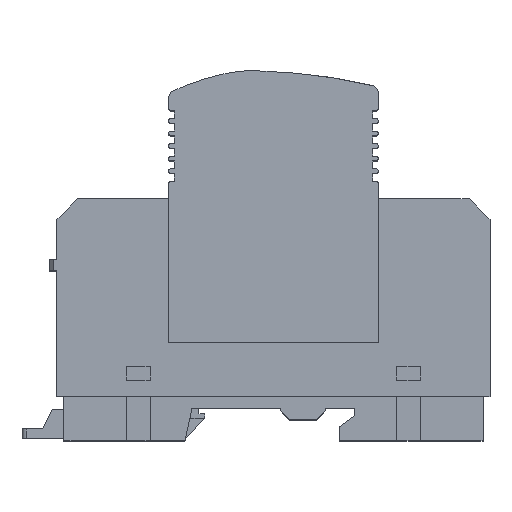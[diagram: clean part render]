
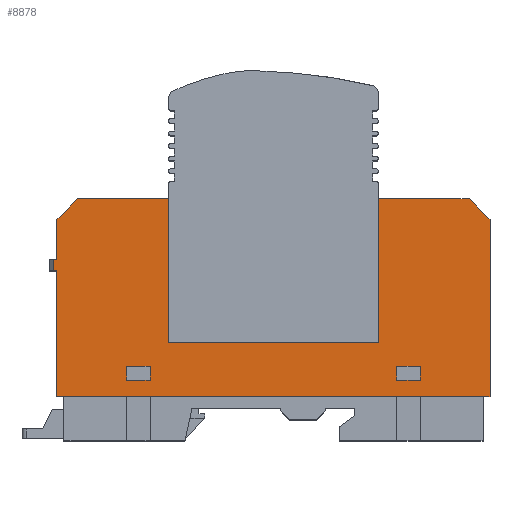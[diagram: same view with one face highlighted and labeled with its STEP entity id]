
A CAD part, top view. The second image highlights one B-rep face of the part: STEP entity #8878.
In plain terms, the highlighted planar face has unit normal (0, 0, 1).
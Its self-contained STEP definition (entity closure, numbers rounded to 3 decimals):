
#174=FACE_BOUND('',#1096,.T.);
#175=FACE_BOUND('',#1097,.T.);
#607=FACE_OUTER_BOUND('',#1095,.T.);
#1095=EDGE_LOOP('',(#6633,#6634,#6635,#6636,#6637,#6638,#6639,#6640,#6641,
#6642,#6643,#6644,#6645,#6646));
#1096=EDGE_LOOP('',(#6647,#6648,#6649,#6650));
#1097=EDGE_LOOP('',(#6651,#6652,#6653,#6654));
#1587=LINE('',#12832,#2636);
#1591=LINE('',#12840,#2640);
#1594=LINE('',#12846,#2643);
#1597=LINE('',#12851,#2646);
#1599=LINE('',#12857,#2648);
#1603=LINE('',#12865,#2652);
#1606=LINE('',#12871,#2655);
#1609=LINE('',#12876,#2658);
#1716=LINE('',#13092,#2765);
#1771=LINE('',#13203,#2820);
#1826=LINE('',#13314,#2875);
#1872=LINE('',#13421,#2921);
#1879=LINE('',#13439,#2928);
#1899=LINE('',#13493,#2948);
#1901=LINE('',#13498,#2950);
#1903=LINE('',#13501,#2952);
#1904=LINE('',#13502,#2953);
#1905=LINE('',#13503,#2954);
#1906=LINE('',#13505,#2955);
#1907=LINE('',#13507,#2956);
#1908=LINE('',#13508,#2957);
#1909=LINE('',#13509,#2958);
#2636=VECTOR('',#10374,10.);
#2640=VECTOR('',#10380,10.);
#2643=VECTOR('',#10385,10.);
#2646=VECTOR('',#10390,10.);
#2648=VECTOR('',#10396,10.);
#2652=VECTOR('',#10402,10.);
#2655=VECTOR('',#10407,10.);
#2658=VECTOR('',#10412,10.);
#2765=VECTOR('',#10591,10.);
#2820=VECTOR('',#10684,10.);
#2875=VECTOR('',#10777,10.);
#2921=VECTOR('',#10895,10.);
#2928=VECTOR('',#10910,10.);
#2948=VECTOR('',#10968,10.);
#2950=VECTOR('',#10972,10.);
#2952=VECTOR('',#10976,10.);
#2953=VECTOR('',#10977,10.);
#2954=VECTOR('',#10978,10.);
#2955=VECTOR('',#10979,10.);
#2956=VECTOR('',#10980,10.);
#2957=VECTOR('',#10981,10.);
#2958=VECTOR('',#10982,10.);
#3620=VERTEX_POINT('',#12830);
#3621=VERTEX_POINT('',#12831);
#3624=VERTEX_POINT('',#12839);
#3626=VERTEX_POINT('',#12845);
#3628=VERTEX_POINT('',#12855);
#3629=VERTEX_POINT('',#12856);
#3632=VERTEX_POINT('',#12864);
#3634=VERTEX_POINT('',#12870);
#3707=VERTEX_POINT('',#13089);
#3708=VERTEX_POINT('',#13091);
#3744=VERTEX_POINT('',#13200);
#3745=VERTEX_POINT('',#13202);
#3781=VERTEX_POINT('',#13311);
#3782=VERTEX_POINT('',#13313);
#3806=VERTEX_POINT('',#13418);
#3807=VERTEX_POINT('',#13420);
#3811=VERTEX_POINT('',#13432);
#3814=VERTEX_POINT('',#13437);
#3829=VERTEX_POINT('',#13491);
#3831=VERTEX_POINT('',#13496);
#3832=VERTEX_POINT('',#13504);
#3833=VERTEX_POINT('',#13506);
#4538=EDGE_CURVE('',#3620,#3621,#1587,.T.);
#4542=EDGE_CURVE('',#3621,#3624,#1591,.T.);
#4545=EDGE_CURVE('',#3624,#3626,#1594,.T.);
#4548=EDGE_CURVE('',#3626,#3620,#1597,.T.);
#4550=EDGE_CURVE('',#3628,#3629,#1599,.T.);
#4554=EDGE_CURVE('',#3629,#3632,#1603,.T.);
#4557=EDGE_CURVE('',#3632,#3634,#1606,.T.);
#4560=EDGE_CURVE('',#3634,#3628,#1609,.T.);
#4667=EDGE_CURVE('',#3708,#3707,#1716,.T.);
#4722=EDGE_CURVE('',#3745,#3744,#1771,.T.);
#4777=EDGE_CURVE('',#3782,#3781,#1826,.T.);
#4826=EDGE_CURVE('',#3807,#3806,#1872,.T.);
#4835=EDGE_CURVE('',#3811,#3814,#1879,.T.);
#4862=EDGE_CURVE('',#3707,#3829,#1899,.T.);
#4864=EDGE_CURVE('',#3831,#3829,#1901,.T.);
#4866=EDGE_CURVE('',#3831,#3745,#1903,.T.);
#4867=EDGE_CURVE('',#3744,#3782,#1904,.T.);
#4868=EDGE_CURVE('',#3781,#3807,#1905,.T.);
#4869=EDGE_CURVE('',#3806,#3832,#1906,.T.);
#4870=EDGE_CURVE('',#3832,#3833,#1907,.T.);
#4871=EDGE_CURVE('',#3833,#3811,#1908,.T.);
#4872=EDGE_CURVE('',#3814,#3708,#1909,.T.);
#6633=ORIENTED_EDGE('',*,*,#4864,.F.);
#6634=ORIENTED_EDGE('',*,*,#4866,.T.);
#6635=ORIENTED_EDGE('',*,*,#4722,.T.);
#6636=ORIENTED_EDGE('',*,*,#4867,.T.);
#6637=ORIENTED_EDGE('',*,*,#4777,.T.);
#6638=ORIENTED_EDGE('',*,*,#4868,.T.);
#6639=ORIENTED_EDGE('',*,*,#4826,.T.);
#6640=ORIENTED_EDGE('',*,*,#4869,.T.);
#6641=ORIENTED_EDGE('',*,*,#4870,.T.);
#6642=ORIENTED_EDGE('',*,*,#4871,.T.);
#6643=ORIENTED_EDGE('',*,*,#4835,.T.);
#6644=ORIENTED_EDGE('',*,*,#4872,.T.);
#6645=ORIENTED_EDGE('',*,*,#4667,.T.);
#6646=ORIENTED_EDGE('',*,*,#4862,.T.);
#6647=ORIENTED_EDGE('',*,*,#4538,.T.);
#6648=ORIENTED_EDGE('',*,*,#4542,.T.);
#6649=ORIENTED_EDGE('',*,*,#4545,.T.);
#6650=ORIENTED_EDGE('',*,*,#4548,.T.);
#6651=ORIENTED_EDGE('',*,*,#4550,.T.);
#6652=ORIENTED_EDGE('',*,*,#4554,.T.);
#6653=ORIENTED_EDGE('',*,*,#4557,.T.);
#6654=ORIENTED_EDGE('',*,*,#4560,.T.);
#8288=PLANE('',#9470);
#8878=ADVANCED_FACE('',(#607,#174,#175),#8288,.T.);
#9470=AXIS2_PLACEMENT_3D('',#13500,#10974,#10975);
#10374=DIRECTION('',(0.,-1.,0.));
#10380=DIRECTION('',(-1.,0.,0.));
#10385=DIRECTION('',(0.,1.,0.));
#10390=DIRECTION('',(1.,0.,0.));
#10396=DIRECTION('',(0.,-1.,0.));
#10402=DIRECTION('',(-1.,0.,0.));
#10407=DIRECTION('',(0.,1.,0.));
#10412=DIRECTION('',(1.,0.,0.));
#10591=DIRECTION('',(0.,-1.,0.));
#10684=DIRECTION('',(0.,-1.,0.));
#10777=DIRECTION('',(0.,1.,0.));
#10895=DIRECTION('',(-1.,0.,0.));
#10910=DIRECTION('',(-1.,0.,0.));
#10968=DIRECTION('',(-1.,0.,0.));
#10972=DIRECTION('',(0.,1.,0.));
#10974=DIRECTION('center_axis',(0.,0.,1.));
#10975=DIRECTION('ref_axis',(1.,0.,0.));
#10976=DIRECTION('',(1.,0.,0.));
#10977=DIRECTION('',(1.,0.,0.));
#10978=DIRECTION('',(-0.707,0.707,0.));
#10979=DIRECTION('',(0.,-1.,0.));
#10980=DIRECTION('',(-1.,0.,0.));
#10981=DIRECTION('',(0.,1.,0.));
#10982=DIRECTION('',(-0.707,-0.707,0.));
#12830=CARTESIAN_POINT('',(-26.5,-23.75,53.));
#12831=CARTESIAN_POINT('',(-26.5,-26.75,53.));
#12832=CARTESIAN_POINT('',(-26.5,-17.235,53.));
#12839=CARTESIAN_POINT('',(-31.5,-26.75,53.));
#12840=CARTESIAN_POINT('',(-15.81,-26.75,53.));
#12845=CARTESIAN_POINT('',(-31.5,-23.75,53.));
#12846=CARTESIAN_POINT('',(-31.5,-15.735,53.));
#12851=CARTESIAN_POINT('',(-13.31,-23.75,53.));
#12855=CARTESIAN_POINT('',(31.5,-23.75,53.));
#12856=CARTESIAN_POINT('',(31.5,-26.75,53.));
#12857=CARTESIAN_POINT('',(31.5,-17.235,53.));
#12864=CARTESIAN_POINT('',(26.5,-26.75,53.));
#12865=CARTESIAN_POINT('',(13.19,-26.75,53.));
#12870=CARTESIAN_POINT('',(26.5,-23.75,53.));
#12871=CARTESIAN_POINT('',(26.5,-15.735,53.));
#12876=CARTESIAN_POINT('',(15.69,-23.75,53.));
#13089=CARTESIAN_POINT('',(-46.5,-0.75,53.));
#13091=CARTESIAN_POINT('',(-46.5,7.75,53.));
#13092=CARTESIAN_POINT('',(-46.5,7.75,53.));
#13200=CARTESIAN_POINT('',(-46.5,-30.25,53.));
#13202=CARTESIAN_POINT('',(-46.5,-3.25,53.));
#13203=CARTESIAN_POINT('',(-46.5,-3.25,53.));
#13311=CARTESIAN_POINT('',(46.5,7.75,53.));
#13313=CARTESIAN_POINT('',(46.5,-30.25,53.));
#13314=CARTESIAN_POINT('',(46.5,-30.25,53.));
#13418=CARTESIAN_POINT('',(22.55,12.25,53.));
#13420=CARTESIAN_POINT('',(42.,12.25,53.));
#13421=CARTESIAN_POINT('',(42.,12.25,53.));
#13432=CARTESIAN_POINT('',(-22.55,12.25,53.));
#13437=CARTESIAN_POINT('',(-42.,12.25,53.));
#13439=CARTESIAN_POINT('',(-22.5,12.25,53.));
#13491=CARTESIAN_POINT('',(-47.2,-0.75,53.));
#13493=CARTESIAN_POINT('',(-46.5,-0.75,53.));
#13496=CARTESIAN_POINT('',(-47.2,-3.25,53.));
#13498=CARTESIAN_POINT('',(-47.2,-4.235,53.));
#13500=CARTESIAN_POINT('Origin',(-0.121,-7.72,53.));
#13501=CARTESIAN_POINT('',(-48.2,-3.25,53.));
#13502=CARTESIAN_POINT('',(-46.5,-30.25,53.));
#13503=CARTESIAN_POINT('',(46.5,7.75,53.));
#13504=CARTESIAN_POINT('',(22.55,-18.75,53.));
#13505=CARTESIAN_POINT('',(22.55,2.265,53.));
#13506=CARTESIAN_POINT('',(-22.55,-18.75,53.));
#13507=CARTESIAN_POINT('',(11.215,-18.75,53.));
#13508=CARTESIAN_POINT('',(-22.55,-13.235,53.));
#13509=CARTESIAN_POINT('',(-42.,12.25,53.));
